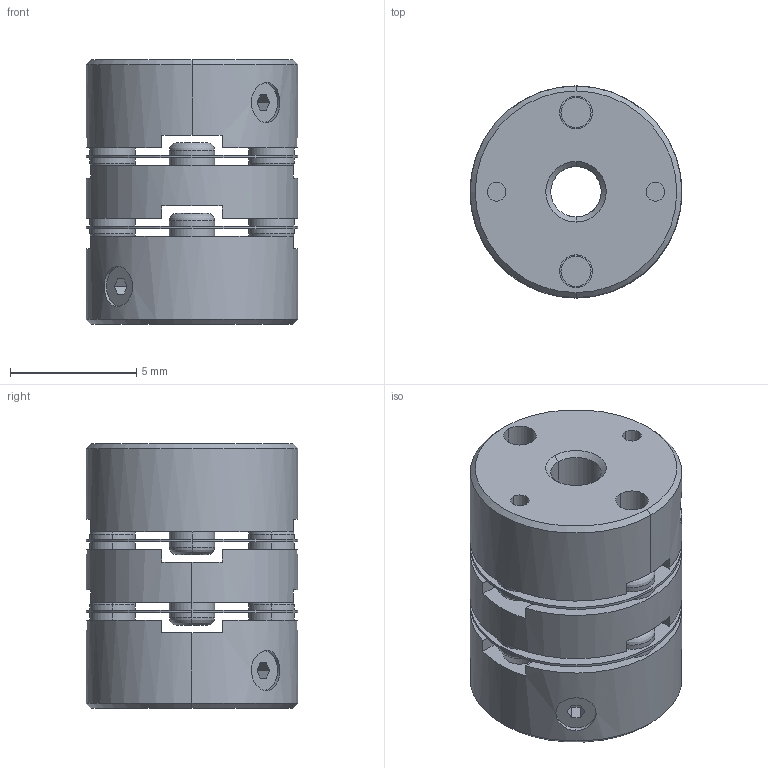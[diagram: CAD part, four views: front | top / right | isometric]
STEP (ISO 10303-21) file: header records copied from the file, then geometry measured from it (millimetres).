
FILE_DESCRIPTION((''),'2;1');
FILE_NAME('LAD-8.4-2×2.stp','2015-10-05T13:41:06',(''),(''),'AutoCAD STEP 2000i','AutoCAD 2000i',', , ');
FILE_SCHEMA(('CONFIG_CONTROL_DESIGN'));
Length unit declared in the file: millimetre
Products named in the file (7): LAD-8.4-2×2; 忣兜1; ﾊﾌﾞφ3-2; ﾊﾌﾞφ3-1; ﾊﾌﾞφ3; SET-M1.6亊2.5; LAD板ﾊﾞﾈ部
Assembly tree (7 placements, depth 2):
  LAD-8.4-2×2
    忣兜1
    ﾊﾌﾞφ3-2
    ﾊﾌﾞφ3-1
    ﾊﾌﾞφ3  x2
    SET-M1.6亊2.5
    LAD板ﾊﾞﾈ部
Bounding box: 8.4 x 8.4 x 10.5 mm (x, y, z)
Volume: 413.3 mm3; surface area: 826.5 mm2
Topology: 1 solids, 1 shells, 165 faces, 421 edges, 292 vertices
Faces by surface type: cylinder 76, plane 65, torus 16, cone 8
Entity records: 5401 total; most frequent: CARTESIAN_POINT 1018, DIRECTION 969, ORIENTED_EDGE 808, EDGE_CURVE 404, AXIS2_PLACEMENT_3D 392, VERTEX_POINT 263, CIRCLE 219, EDGE_LOOP 213
